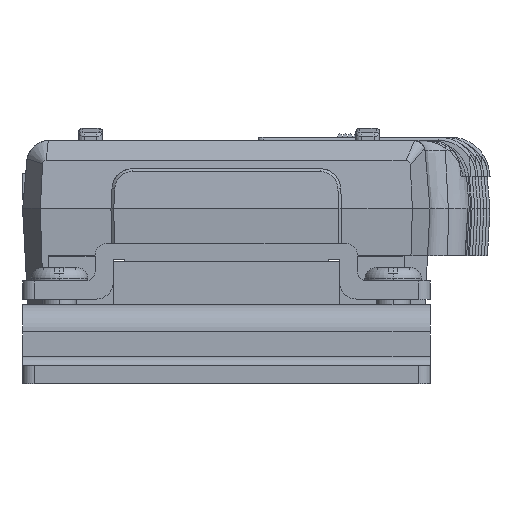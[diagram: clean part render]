
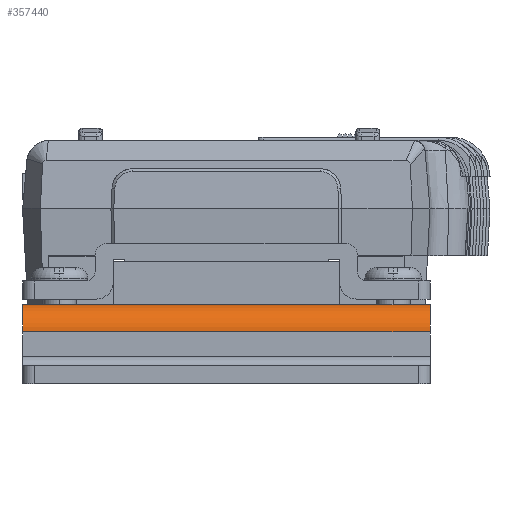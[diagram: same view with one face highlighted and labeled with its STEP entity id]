
A CAD part, left-side view. The second image highlights one B-rep face of the part: STEP entity #357440.
In plain terms, the highlighted cylindrical face has radius 2.4 mm (diameter 4.8 mm), a partial arc.
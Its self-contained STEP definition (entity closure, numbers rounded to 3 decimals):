
#352700=CARTESIAN_POINT('',(139.239,261.109,
104.606));
#352710=VERTEX_POINT('',#352700);
#352740=CARTESIAN_POINT('',(139.239,261.109,
102.206));
#352750=DIRECTION('',(0.,-1.,0.));
#352760=DIRECTION('',(1.,0.,0.));
#352770=AXIS2_PLACEMENT_3D('',#352740,#352750,#352760);
#352780=CIRCLE('',#352770,2.4);
#352790=CARTESIAN_POINT('',(136.839,261.109,
102.206));
#352800=VERTEX_POINT('',#352790);
#352810=EDGE_CURVE('',#352710,#352800,#352780,.T.);
#354610=CARTESIAN_POINT('',(136.839,225.109,
102.206));
#354620=VERTEX_POINT('',#354610);
#354650=CARTESIAN_POINT('',(139.239,225.109,
102.206));
#354660=DIRECTION('',(0.,-1.,0.));
#354670=DIRECTION('',(1.,0.,0.));
#354680=AXIS2_PLACEMENT_3D('',#354650,#354660,#354670);
#354690=CIRCLE('',#354680,2.4);
#354700=CARTESIAN_POINT('',(139.239,225.109,
104.606));
#354710=VERTEX_POINT('',#354700);
#354720=EDGE_CURVE('',#354710,#354620,#354690,.T.);
#356880=CARTESIAN_POINT('',(139.239,261.109,
104.606));
#356890=DIRECTION('',(0.,-1.,0.));
#356900=VECTOR('',#356890,1.);
#356910=LINE('',#356880,#356900);
#356920=EDGE_CURVE('',#352710,#354710,#356910,.T.);
#357280=CARTESIAN_POINT('',(139.239,261.109,
102.206));
#357290=DIRECTION('',(0.,-1.,0.));
#357300=DIRECTION('',(1.,0.,0.));
#357310=AXIS2_PLACEMENT_3D('',#357280,#357290,#357300);
#357320=CYLINDRICAL_SURFACE('',#357310,2.4);
#357330=ORIENTED_EDGE('',*,*,#356920,.F.);
#357340=ORIENTED_EDGE('',*,*,#354720,.F.);
#357350=CARTESIAN_POINT('',(136.839,261.109,
102.206));
#357360=DIRECTION('',(0.,-1.,0.));
#357370=VECTOR('',#357360,1.);
#357380=LINE('',#357350,#357370);
#357390=EDGE_CURVE('',#352800,#354620,#357380,.T.);
#357400=ORIENTED_EDGE('',*,*,#357390,.T.);
#357410=ORIENTED_EDGE('',*,*,#352810,.T.);
#357420=EDGE_LOOP('',(#357410,#357400,#357340,#357330));
#357430=FACE_OUTER_BOUND('',#357420,.T.);
#357440=ADVANCED_FACE('',(#357430),#357320,.T.);
